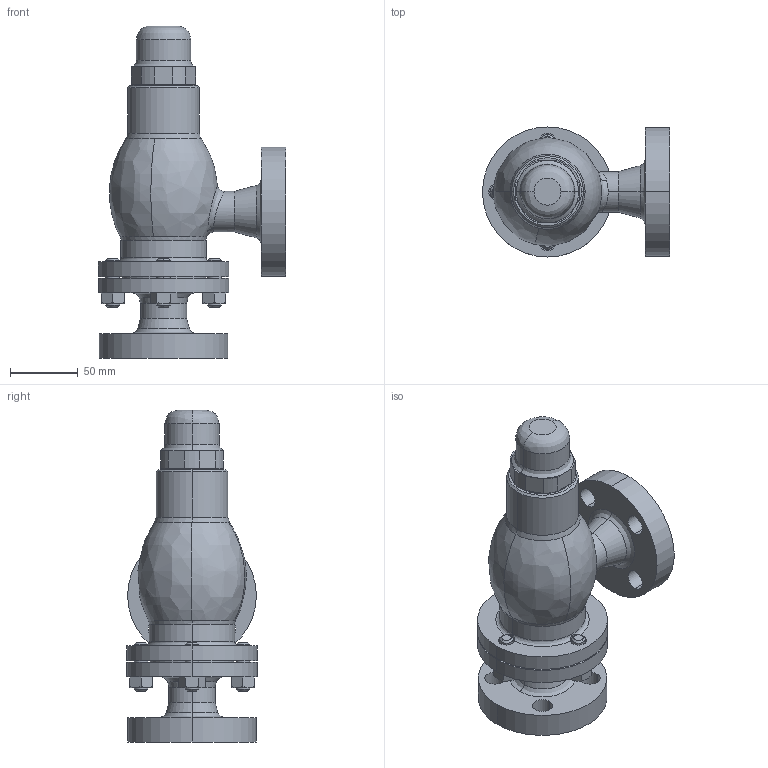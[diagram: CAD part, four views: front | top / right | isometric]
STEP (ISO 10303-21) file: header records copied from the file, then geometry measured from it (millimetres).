
FILE_DESCRIPTION( (''), '2;1');
FILE_NAME ('PC1029.10648.AL-300,301,300T,301T 15A_13672.stp','2024-12-13T15:42:47',(''),(''),'spGate 19.8.4 (****-****-****-****)','','');
FILE_SCHEMA (('AUTOMOTIVE_DESIGN'));
Length unit declared in the file: millimetre
Products named in the file (4): Assembly; 弁箱・ばね箱　15A; スタッドボルト・ナット15-25A; AL-300 15-25Aキャップ
Assembly tree (6 placements, depth 2):
  Assembly
    弁箱・ばね箱　15A
    スタッドボルト・ナット15-25A  x4
    AL-300 15-25Aキャップ
Bounding box: 138 x 96 x 245 mm (x, y, z)
Volume: 963415.3 mm3; surface area: 120605.2 mm2
Topology: 6 solids, 6 shells, 200 faces, 482 edges, 308 vertices
Faces by surface type: cylinder 80, plane 68, bspline 52
Entity records: 8174 total; most frequent: CARTESIAN_POINT 2111, ORIENTED_EDGE 700, DIRECTION 646, COLOUR_RGB 493, PRESENTATION_STYLE_ASSIGNMENT 493, STYLED_ITEM 493, EDGE_CURVE 350, DRAUGHTING_PRE_DEFINED_CURVE_FONT 350
